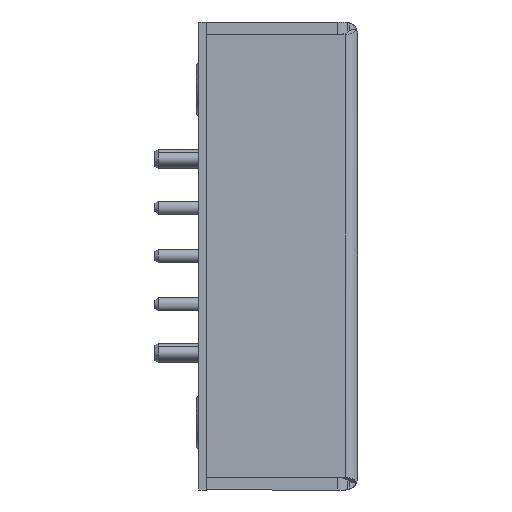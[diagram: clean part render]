
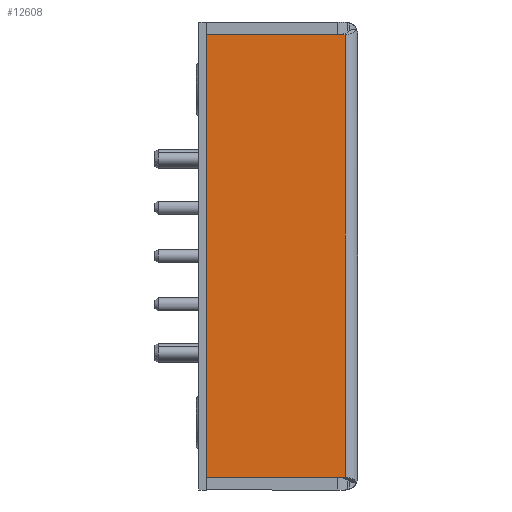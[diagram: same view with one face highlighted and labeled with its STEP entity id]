
A CAD part, left-side view. The second image highlights one B-rep face of the part: STEP entity #12608.
In plain terms, the highlighted planar face has unit normal (-1, 0, 0).
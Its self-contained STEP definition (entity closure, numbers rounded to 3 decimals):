
#254 = DIRECTION ( 'NONE',  ( 0., 0., -1. ) ) ;
#455 = DIRECTION ( 'NONE',  ( 0., 1., 0. ) ) ;
#656 = CARTESIAN_POINT ( 'NONE',  ( -30.852, -7.693, -19.408 ) ) ;
#1550 = VECTOR ( 'NONE', #19792, 1000. ) ;
#1599 = ORIENTED_EDGE ( 'NONE', *, *, #10987, .T. ) ;
#2071 = LINE ( 'NONE', #10689, #8079 ) ;
#2098 = LINE ( 'NONE', #21529, #2699 ) ;
#2285 = VECTOR ( 'NONE', #9292, 1000. ) ;
#2699 = VECTOR ( 'NONE', #254, 1000. ) ;
#2801 = EDGE_LOOP ( 'NONE', ( #1599, #22139, #15343, #15316, #10560, #22053, #20850 ) ) ;
#3247 = DIRECTION ( 'NONE',  ( 1., 0., 0. ) ) ;
#3441 = DIRECTION ( 'NONE',  ( 0., -1., 0. ) ) ;
#3500 = EDGE_CURVE ( 'NONE', #4494, #17638, #2071, .T. ) ;
#3987 = VERTEX_POINT ( 'NONE', #13314 ) ;
#4260 = AXIS2_PLACEMENT_3D ( 'NONE', #19001, #3247, #17268 ) ;
#4422 = VERTEX_POINT ( 'NONE', #16834 ) ;
#4494 = VERTEX_POINT ( 'NONE', #9712 ) ;
#4911 = VECTOR ( 'NONE', #5721, 1000. ) ;
#5400 = CARTESIAN_POINT ( 'NONE',  ( -30.852, -8.273, 17.4 ) ) ;
#5721 = DIRECTION ( 'NONE',  ( 0., -1., 0. ) ) ;
#5990 = CARTESIAN_POINT ( 'NONE',  ( -30.852, -7.693, -17.405 ) ) ;
#6503 = VERTEX_POINT ( 'NONE', #12248 ) ;
#6699 = FACE_OUTER_BOUND ( 'NONE', #2801, .T. ) ;
#7364 = EDGE_CURVE ( 'NONE', #6503, #4422, #22526, .T. ) ;
#7569 = VECTOR ( 'NONE', #20488, 1000. ) ;
#8079 = VECTOR ( 'NONE', #455, 1000. ) ;
#8406 = CARTESIAN_POINT ( 'NONE',  ( -30.852, 2.627, -17.4 ) ) ;
#9292 = DIRECTION ( 'NONE',  ( 0., 0., 1. ) ) ;
#9325 = CARTESIAN_POINT ( 'NONE',  ( -30.852, 2.627, -17.4 ) ) ;
#9712 = CARTESIAN_POINT ( 'NONE',  ( -30.852, -8.273, -17.405 ) ) ;
#9911 = CARTESIAN_POINT ( 'NONE',  ( -30.852, 2.627, 17.4 ) ) ;
#10560 = ORIENTED_EDGE ( 'NONE', *, *, #7364, .F. ) ;
#10689 = CARTESIAN_POINT ( 'NONE',  ( -30.852, -7.693, -17.405 ) ) ;
#10987 = EDGE_CURVE ( 'NONE', #15850, #13776, #17137, .T. ) ;
#11491 = LINE ( 'NONE', #21625, #1550 ) ;
#12248 = CARTESIAN_POINT ( 'NONE',  ( -30.852, -7.693, 17.4 ) ) ;
#12608 = ADVANCED_FACE ( 'NONE', ( #6699 ), #13699, .F. ) ;
#13073 = LINE ( 'NONE', #656, #2285 ) ;
#13314 = CARTESIAN_POINT ( 'NONE',  ( -30.852, 2.627, 17.4 ) ) ;
#13699 = PLANE ( 'NONE',  #4260 ) ;
#13776 = VERTEX_POINT ( 'NONE', #14119 ) ;
#13861 = EDGE_CURVE ( 'NONE', #3987, #6503, #22742, .T. ) ;
#14119 = CARTESIAN_POINT ( 'NONE',  ( -30.852, -7.693, -17.4 ) ) ;
#15316 = ORIENTED_EDGE ( 'NONE', *, *, #21540, .F. ) ;
#15343 = ORIENTED_EDGE ( 'NONE', *, *, #3500, .F. ) ;
#15806 = VECTOR ( 'NONE', #3441, 1000. ) ;
#15850 = VERTEX_POINT ( 'NONE', #9325 ) ;
#16834 = CARTESIAN_POINT ( 'NONE',  ( -30.852, -8.273, 17.4 ) ) ;
#17122 = EDGE_CURVE ( 'NONE', #17638, #13776, #13073, .T. ) ;
#17137 = LINE ( 'NONE', #8406, #4911 ) ;
#17268 = DIRECTION ( 'NONE',  ( 0., 1., 0. ) ) ;
#17638 = VERTEX_POINT ( 'NONE', #5990 ) ;
#17809 = EDGE_CURVE ( 'NONE', #3987, #15850, #11491, .T. ) ;
#19001 = CARTESIAN_POINT ( 'NONE',  ( -30.852, 2.627, 17.4 ) ) ;
#19792 = DIRECTION ( 'NONE',  ( 0., 0., -1. ) ) ;
#20488 = DIRECTION ( 'NONE',  ( 0., -1., 0. ) ) ;
#20850 = ORIENTED_EDGE ( 'NONE', *, *, #17809, .T. ) ;
#21529 = CARTESIAN_POINT ( 'NONE',  ( -30.852, -8.273, 17.4 ) ) ;
#21540 = EDGE_CURVE ( 'NONE', #4422, #4494, #2098, .T. ) ;
#21625 = CARTESIAN_POINT ( 'NONE',  ( -30.852, 2.627, 17.4 ) ) ;
#22053 = ORIENTED_EDGE ( 'NONE', *, *, #13861, .F. ) ;
#22139 = ORIENTED_EDGE ( 'NONE', *, *, #17122, .F. ) ;
#22526 = LINE ( 'NONE', #5400, #15806 ) ;
#22742 = LINE ( 'NONE', #9911, #7569 ) ;
